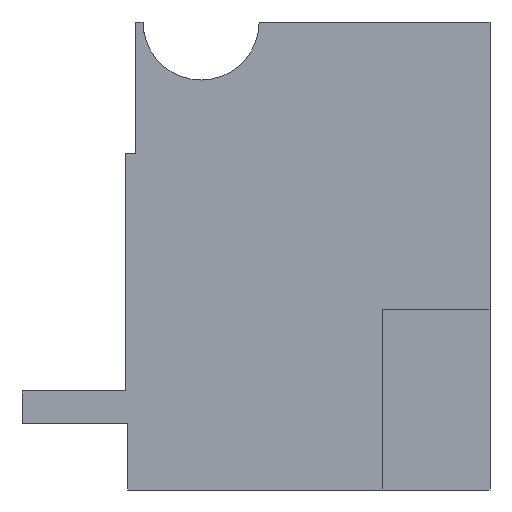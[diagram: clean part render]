
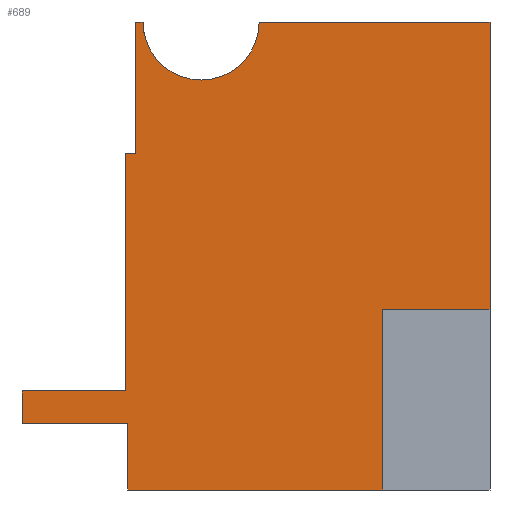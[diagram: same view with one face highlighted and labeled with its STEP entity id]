
A CAD part, front view. The second image highlights one B-rep face of the part: STEP entity #689.
In plain terms, the highlighted planar face has unit normal (0, -1, 0).
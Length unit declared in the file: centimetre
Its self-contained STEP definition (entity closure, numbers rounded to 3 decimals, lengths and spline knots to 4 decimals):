
#4 = DIRECTION ( 'NONE',  ( 1., 0., 0. ) ) ;
#33 = VERTEX_POINT ( 'NONE', #168 ) ;
#40 = EDGE_CURVE ( 'NONE', #662, #926, #389, .T. ) ;
#45 = EDGE_CURVE ( 'NONE', #614, #662, #691, .T. ) ;
#48 = CIRCLE ( 'NONE', #277, 123.9786 ) ;
#49 = ORIENTED_EDGE ( 'NONE', *, *, #205, .F. ) ;
#56 = DIRECTION ( 'NONE',  ( 0., 0., -1. ) ) ;
#58 = ORIENTED_EDGE ( 'NONE', *, *, #40, .T. ) ;
#64 = VECTOR ( 'NONE', #142, 100. ) ;
#72 = CARTESIAN_POINT ( 'NONE',  ( 0., 0., 1000. ) ) ;
#75 = VERTEX_POINT ( 'NONE', #79 ) ;
#79 = CARTESIAN_POINT ( 'NONE',  ( 258.6595, 0., 1000. ) ) ;
#91 = EDGE_CURVE ( 'NONE', #33, #490, #624, .T. ) ;
#92 = CARTESIAN_POINT ( 'NONE',  ( 0., 0., 211.6082 ) ) ;
#95 = ORIENTED_EDGE ( 'NONE', *, *, #413, .F. ) ;
#98 = VECTOR ( 'NONE', #468, 100. ) ;
#114 = VECTOR ( 'NONE', #231, 100. ) ;
#117 = AXIS2_PLACEMENT_3D ( 'NONE', #580, #652, #346 ) ;
#131 = ORIENTED_EDGE ( 'NONE', *, *, #431, .F. ) ;
#142 = DIRECTION ( 'NONE',  ( 0., 0., -1. ) ) ;
#145 = VERTEX_POINT ( 'NONE', #873 ) ;
#148 = DIRECTION ( 'NONE',  ( 0., 0., 1. ) ) ;
#149 = AXIS2_PLACEMENT_3D ( 'NONE', #688, #922, #670 ) ;
#164 = VECTOR ( 'NONE', #4, 100. ) ;
#168 = CARTESIAN_POINT ( 'NONE',  ( 1000., 0., 1000. ) ) ;
#183 = LINE ( 'NONE', #648, #551 ) ;
#205 = EDGE_CURVE ( 'NONE', #490, #329, #423, .T. ) ;
#206 = CARTESIAN_POINT ( 'NONE',  ( 242.9511, 0., 1000. ) ) ;
#216 = ORIENTED_EDGE ( 'NONE', *, *, #630, .F. ) ;
#224 = CARTESIAN_POINT ( 'NONE',  ( 220.6752, 0., 718.1263 ) ) ;
#225 = VECTOR ( 'NONE', #547, 100. ) ;
#231 = DIRECTION ( 'NONE',  ( 0., 0., -1. ) ) ;
#251 = CARTESIAN_POINT ( 'NONE',  ( 0., 0., 0. ) ) ;
#265 = PLANE ( 'NONE',  #117 ) ;
#270 = EDGE_CURVE ( 'NONE', #1003, #371, #183, .T. ) ;
#273 = CARTESIAN_POINT ( 'NONE',  ( 770.5022, 0., 386.5761 ) ) ;
#277 = AXIS2_PLACEMENT_3D ( 'NONE', #839, #524, #56 ) ;
#297 = EDGE_LOOP ( 'NONE', ( #900, #95, #49, #465, #535, #131, #530, #775, #671, #825, #562, #216, #301, #58, #522 ) ) ;
#301 = ORIENTED_EDGE ( 'NONE', *, *, #45, .T. ) ;
#303 = VERTEX_POINT ( 'NONE', #973 ) ;
#318 = LINE ( 'NONE', #714, #567 ) ;
#324 = VECTOR ( 'NONE', #594, 100. ) ;
#329 = VERTEX_POINT ( 'NONE', #273 ) ;
#331 = EDGE_CURVE ( 'NONE', #926, #145, #584, .T. ) ;
#346 = DIRECTION ( 'NONE',  ( 0., 0., 1. ) ) ;
#356 = CARTESIAN_POINT ( 'NONE',  ( 0., 0., 141.7144 ) ) ;
#371 = VERTEX_POINT ( 'NONE', #224 ) ;
#389 = LINE ( 'NONE', #478, #164 ) ;
#397 = CARTESIAN_POINT ( 'NONE',  ( 382.6381, 0., 876.0214 ) ) ;
#402 = EDGE_CURVE ( 'NONE', #724, #75, #463, .T. ) ;
#413 = EDGE_CURVE ( 'NONE', #329, #832, #540, .T. ) ;
#423 = LINE ( 'NONE', #821, #957 ) ;
#424 = EDGE_CURVE ( 'NONE', #303, #371, #446, .T. ) ;
#431 = EDGE_CURVE ( 'NONE', #620, #770, #890, .T. ) ;
#433 = VECTOR ( 'NONE', #495, 100. ) ;
#446 = LINE ( 'NONE', #846, #923 ) ;
#463 = LINE ( 'NONE', #72, #98 ) ;
#465 = ORIENTED_EDGE ( 'NONE', *, *, #91, .F. ) ;
#468 = DIRECTION ( 'NONE',  ( 1., 0., 0. ) ) ;
#478 = CARTESIAN_POINT ( 'NONE',  ( 0., 0., 141.7144 ) ) ;
#490 = VERTEX_POINT ( 'NONE', #872 ) ;
#495 = DIRECTION ( 'NONE',  ( 1., 0., 0. ) ) ;
#509 = CARTESIAN_POINT ( 'NONE',  ( 226.0846, 0., 141.7144 ) ) ;
#517 = CARTESIAN_POINT ( 'NONE',  ( 506.6166, 0., 1000. ) ) ;
#522 = ORIENTED_EDGE ( 'NONE', *, *, #331, .T. ) ;
#524 = DIRECTION ( 'NONE',  ( 0., -1., 0. ) ) ;
#527 = EDGE_CURVE ( 'NONE', #724, #1003, #318, .T. ) ;
#530 = ORIENTED_EDGE ( 'NONE', *, *, #802, .F. ) ;
#535 = ORIENTED_EDGE ( 'NONE', *, *, #715, .F. ) ;
#540 = LINE ( 'NONE', #861, #64 ) ;
#547 = DIRECTION ( 'NONE',  ( 0., 0., -1. ) ) ;
#551 = VECTOR ( 'NONE', #576, 100. ) ;
#562 = ORIENTED_EDGE ( 'NONE', *, *, #424, .F. ) ;
#567 = VECTOR ( 'NONE', #632, 100. ) ;
#576 = DIRECTION ( 'NONE',  ( -1., 0., 0. ) ) ;
#580 = CARTESIAN_POINT ( 'NONE',  ( 0., 0., 1000. ) ) ;
#584 = LINE ( 'NONE', #893, #114 ) ;
#587 = CARTESIAN_POINT ( 'NONE',  ( 770.5022, 0., 0. ) ) ;
#594 = DIRECTION ( 'NONE',  ( 1., 0., 0. ) ) ;
#599 = EDGE_CURVE ( 'NONE', #145, #832, #640, .T. ) ;
#614 = VERTEX_POINT ( 'NONE', #92 ) ;
#617 = DIRECTION ( 'NONE',  ( 0., 0., -1. ) ) ;
#620 = VERTEX_POINT ( 'NONE', #397 ) ;
#624 = LINE ( 'NONE', #930, #225 ) ;
#628 = LINE ( 'NONE', #709, #765 ) ;
#630 = EDGE_CURVE ( 'NONE', #614, #303, #628, .T. ) ;
#632 = DIRECTION ( 'NONE',  ( 0., 0., -1. ) ) ;
#640 = LINE ( 'NONE', #251, #433 ) ;
#648 = CARTESIAN_POINT ( 'NONE',  ( 0., 0., 718.1263 ) ) ;
#652 = DIRECTION ( 'NONE',  ( 0., 1., 0. ) ) ;
#662 = VERTEX_POINT ( 'NONE', #356 ) ;
#670 = DIRECTION ( 'NONE',  ( 0., 0., -1. ) ) ;
#671 = ORIENTED_EDGE ( 'NONE', *, *, #527, .T. ) ;
#688 = CARTESIAN_POINT ( 'NONE',  ( 382.6381, 0., 1000. ) ) ;
#689 = ADVANCED_FACE ( 'NONE', ( #812 ), #265, .F. ) ;
#691 = LINE ( 'NONE', #791, #783 ) ;
#709 = CARTESIAN_POINT ( 'NONE',  ( 220.6752, 0., 211.6082 ) ) ;
#714 = CARTESIAN_POINT ( 'NONE',  ( 242.9511, 0., 718.1263 ) ) ;
#715 = EDGE_CURVE ( 'NONE', #770, #33, #967, .T. ) ;
#720 = DIRECTION ( 'NONE',  ( 1., 0., 0. ) ) ;
#724 = VERTEX_POINT ( 'NONE', #206 ) ;
#765 = VECTOR ( 'NONE', #720, 100. ) ;
#767 = CARTESIAN_POINT ( 'NONE',  ( 242.9511, 0., 718.1263 ) ) ;
#770 = VERTEX_POINT ( 'NONE', #517 ) ;
#775 = ORIENTED_EDGE ( 'NONE', *, *, #402, .F. ) ;
#783 = VECTOR ( 'NONE', #617, 100. ) ;
#791 = CARTESIAN_POINT ( 'NONE',  ( 0., 0., 1000. ) ) ;
#802 = EDGE_CURVE ( 'NONE', #75, #620, #48, .T. ) ;
#812 = FACE_OUTER_BOUND ( 'NONE', #297, .T. ) ;
#821 = CARTESIAN_POINT ( 'NONE',  ( 770.5022, 0., 386.5761 ) ) ;
#825 = ORIENTED_EDGE ( 'NONE', *, *, #270, .T. ) ;
#832 = VERTEX_POINT ( 'NONE', #587 ) ;
#839 = CARTESIAN_POINT ( 'NONE',  ( 382.6381, 0., 1000. ) ) ;
#846 = CARTESIAN_POINT ( 'NONE',  ( 220.6752, 0., 211.6082 ) ) ;
#861 = CARTESIAN_POINT ( 'NONE',  ( 770.5022, 0., 386.5761 ) ) ;
#872 = CARTESIAN_POINT ( 'NONE',  ( 1000., 0., 386.5761 ) ) ;
#873 = CARTESIAN_POINT ( 'NONE',  ( 226.0846, 0., 0. ) ) ;
#890 = CIRCLE ( 'NONE', #149, 123.9786 ) ;
#893 = CARTESIAN_POINT ( 'NONE',  ( 226.0846, 0., 0. ) ) ;
#900 = ORIENTED_EDGE ( 'NONE', *, *, #599, .T. ) ;
#922 = DIRECTION ( 'NONE',  ( 0., -1., 0. ) ) ;
#923 = VECTOR ( 'NONE', #148, 100. ) ;
#926 = VERTEX_POINT ( 'NONE', #509 ) ;
#930 = CARTESIAN_POINT ( 'NONE',  ( 1000., 0., 1000. ) ) ;
#957 = VECTOR ( 'NONE', #969, 100. ) ;
#967 = LINE ( 'NONE', #970, #324 ) ;
#969 = DIRECTION ( 'NONE',  ( -1., 0., 0. ) ) ;
#970 = CARTESIAN_POINT ( 'NONE',  ( 0., 0., 1000. ) ) ;
#973 = CARTESIAN_POINT ( 'NONE',  ( 220.6752, 0., 211.6082 ) ) ;
#1003 = VERTEX_POINT ( 'NONE', #767 ) ;
